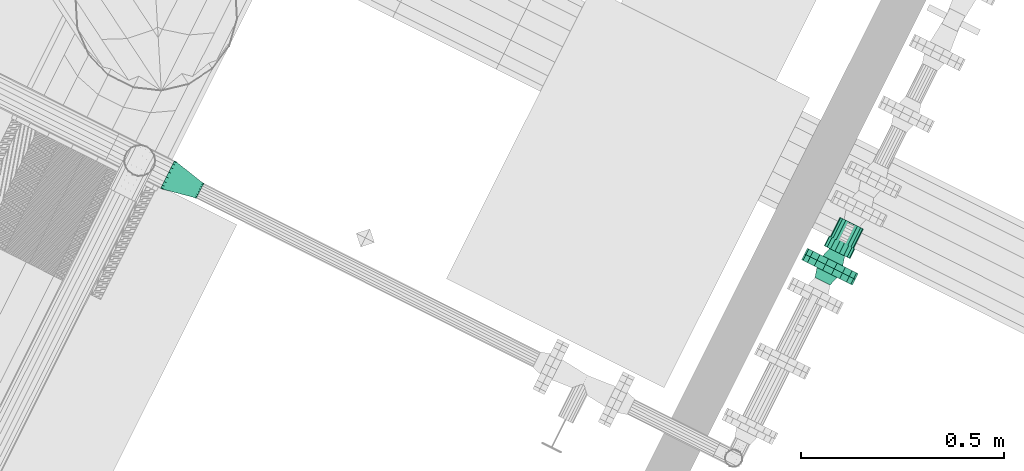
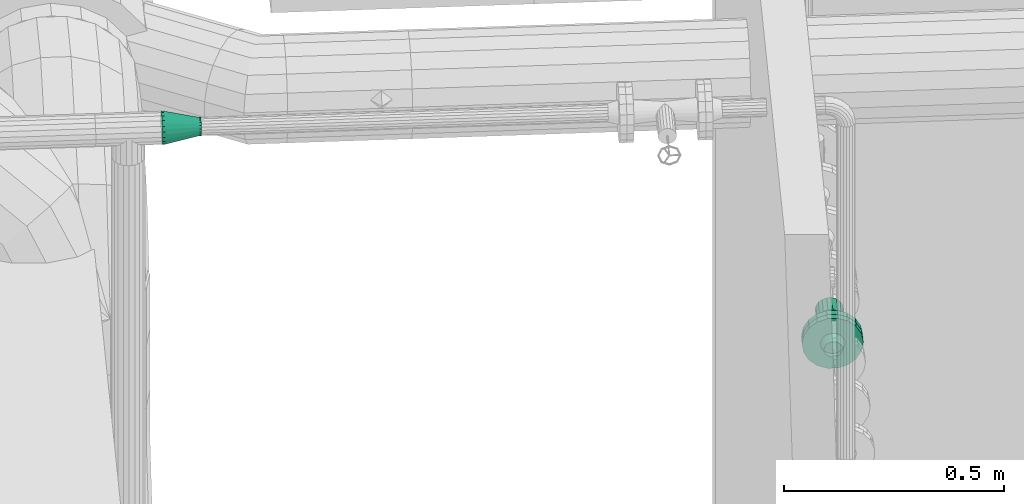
# One storey, part 140 of 206: 3 flow fittings, 1 flow controller.
"""IFC2X3 building model written with IfcOpenShell, lengths in metres."""

from ifc_helpers import new_model, si_unit, derived_unit, direction, frame, origin, place, context, subcontext, project, spatial, face_set, surface_model, source, transform, mapped, material, type_object, type_shapes, element, save


model = new_model("IFC2X3")

# Units and contexts
model_context = context("Model", 3, precision=5.2338327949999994e-05, world=origin(), true_north=direction((0.0, 1.0)))
body_context = subcontext(model_context, "Body", "Model", "MODEL_VIEW")
ifc_project = project(units=[si_unit("LENGTHUNIT", "METRE"), si_unit("AREAUNIT", "SQUARE_METRE"), si_unit("VOLUMEUNIT", "CUBIC_METRE"), si_unit("MASSUNIT", "GRAM", prefix="KILO"), si_unit("PLANEANGLEUNIT", "RADIAN"), derived_unit("THERMALTRANSMITTANCEUNIT", [(si_unit("MASSUNIT", "GRAM", prefix="KILO"), 1), (si_unit("THERMODYNAMICTEMPERATUREUNIT", "KELVIN"), -1), (si_unit("TIMEUNIT", "SECOND"), -3)])], contexts=[model_context])

# Site, building, storey
site_placement = place(None, frame((0.0, 0.0, 0.0), z_axis=(0.0, 0.0, 1.0), x_axis=(0.8939966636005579, -0.4480736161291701, 0.0)))
site = spatial("IfcSite", under=ifc_project, at=site_placement, Name="Default", CompositionType="ELEMENT")
building_placement = place(site_placement, origin())
building = spatial("IfcBuilding", under=site, at=building_placement, CompositionType="ELEMENT")
storey_placement = place(building_placement, origin())
storey = spatial("IfcBuildingStorey", under=building, at=storey_placement, Name="Erdgeschoss", CompositionType="ELEMENT", Elevation=0.0)

# Flow fittings
ifc_material = material(Name="IfcSurfaceStyle #352577")
distribution_element_type_1 = type_object("IfcDistributionElementType", Name="Übergangsstück 605382:Übergangsstück 605382", material=ifc_material)
shared_shape_1 = source(origin(), body_context, "Body", "SurfaceModel", [
    surface_model("IfcFaceBasedSurfaceModel", [(27.521642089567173, 8.039112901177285, 2.6051641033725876), (27.521642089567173, 8.04140759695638, 2.5921502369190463), (27.528257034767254, 8.04140759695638, 2.5921502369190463), (27.528257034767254, 8.039112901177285, 2.6051641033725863), (27.521642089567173, 8.048014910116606, 2.5807060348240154), (27.528257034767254, 8.048014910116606, 2.5807060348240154), (27.521642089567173, 8.058137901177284, 2.5722118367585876), (27.528257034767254, 8.058137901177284, 2.5722118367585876), (27.521642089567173, 8.070555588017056, 2.5676921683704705), (27.528257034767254, 8.070555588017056, 2.5676921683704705), (27.521642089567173, 8.083770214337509, 2.567692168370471), (27.528257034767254, 8.083770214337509, 2.567692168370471), (27.521642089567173, 8.096187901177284, 2.5722118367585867), (27.528257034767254, 8.096187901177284, 2.5722118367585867), (27.521642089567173, 8.10631089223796, 2.5807060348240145), (27.528257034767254, 8.10631089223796, 2.5807060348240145), (27.521642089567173, 8.112918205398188, 2.5921502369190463), (27.528257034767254, 8.112918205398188, 2.5921502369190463), (27.521642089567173, 8.115212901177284, 2.605164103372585), (27.528257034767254, 8.115212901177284, 2.605164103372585), (27.521642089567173, 8.112918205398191, 2.61817796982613), (27.528257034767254, 8.112918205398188, 2.61817796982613), (27.521642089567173, 8.106310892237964, 2.6296221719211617), (27.528257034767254, 8.106310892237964, 2.6296221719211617), (27.521642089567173, 8.096187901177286, 2.6381163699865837), (27.528257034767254, 8.096187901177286, 2.6381163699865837), (27.521642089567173, 8.083770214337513, 2.642636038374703), (27.528257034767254, 8.083770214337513, 2.642636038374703), (27.521642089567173, 8.07055558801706, 2.6426360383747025), (27.528257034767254, 8.07055558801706, 2.6426360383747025), (27.521642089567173, 8.058137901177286, 2.6381163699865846), (27.528257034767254, 8.058137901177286, 2.6381163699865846), (27.521642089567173, 8.048014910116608, 2.629622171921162), (27.528257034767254, 8.048014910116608, 2.629622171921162), (27.521642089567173, 8.041407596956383, 2.6181779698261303), (27.528257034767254, 8.041407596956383, 2.6181779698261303), (27.528257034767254, 8.077162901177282, 2.5671141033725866), (27.528257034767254, 8.090176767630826, 2.5694087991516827), (27.607037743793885, 8.084413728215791, 2.5852426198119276), (27.607037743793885, 8.077162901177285, 2.5839641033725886), (27.528257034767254, 8.101620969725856, 2.5760161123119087), (27.607037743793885, 8.09078999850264, 2.588923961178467), (27.528257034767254, 8.110115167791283, 2.586139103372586), (27.607037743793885, 8.095522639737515, 2.5945641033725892), (27.528257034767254, 8.114634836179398, 2.5985567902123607), (27.607037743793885, 8.098040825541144, 2.601482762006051), (27.528257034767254, 8.114634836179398, 2.611771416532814), (27.607037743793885, 8.098040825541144, 2.6088454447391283), (27.528257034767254, 8.110115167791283, 2.6241891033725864), (27.607037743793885, 8.095522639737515, 2.6157641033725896), (27.528257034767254, 8.10162096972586, 2.634312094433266), (27.607037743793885, 8.09078999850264, 2.621404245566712), (27.528257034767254, 8.090176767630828, 2.6409194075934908), (27.607037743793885, 8.08441372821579, 2.6250855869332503), (27.528257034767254, 8.077162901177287, 2.643214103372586), (27.607037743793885, 8.077162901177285, 2.6263641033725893), (27.528257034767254, 8.064149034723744, 2.6409194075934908), (27.607037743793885, 8.06991207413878, 2.6250855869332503), (27.528257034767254, 8.052704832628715, 2.6343120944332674), (27.607037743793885, 8.06353580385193, 2.6214042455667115), (27.528257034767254, 8.044210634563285, 2.624189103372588), (27.607037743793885, 8.058803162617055, 2.61576410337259), (27.528257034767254, 8.03969096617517, 2.6117714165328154), (27.607037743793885, 8.056284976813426, 2.6088454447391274), (27.528257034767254, 8.03969096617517, 2.5985567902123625), (27.607037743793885, 8.056284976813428, 2.6014827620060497), (27.528257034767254, 8.044210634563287, 2.586139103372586), (27.607037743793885, 8.058803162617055, 2.594564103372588), (27.528257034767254, 8.052704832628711, 2.5760161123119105), (27.607037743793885, 8.06353580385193, 2.5889239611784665), (27.528257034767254, 8.06414903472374, 2.5694087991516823), (27.607037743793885, 8.069912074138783, 2.5852426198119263), (27.607037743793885, 8.055962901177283, 2.6051641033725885), (27.607037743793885, 8.057241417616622, 2.597913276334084), (27.611642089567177, 8.057241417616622, 2.597913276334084), (27.611642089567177, 8.055962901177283, 2.6051641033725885), (27.607037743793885, 8.060922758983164, 2.5915370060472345), (27.611642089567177, 8.060922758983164, 2.5915370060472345), (27.607037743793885, 8.066562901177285, 2.5868043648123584), (27.611642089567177, 8.066562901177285, 2.5868043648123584), (27.607037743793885, 8.073481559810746, 2.5842861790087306), (27.611642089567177, 8.073481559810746, 2.5842861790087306), (27.607037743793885, 8.080844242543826, 2.5842861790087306), (27.611642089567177, 8.080844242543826, 2.5842861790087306), (27.607037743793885, 8.087762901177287, 2.5868043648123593), (27.611642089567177, 8.087762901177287, 2.5868043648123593), (27.607037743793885, 8.093403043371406, 2.5915370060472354), (27.611642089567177, 8.093403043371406, 2.5915370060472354), (27.607037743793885, 8.097084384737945, 2.597913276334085), (27.611642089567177, 8.097084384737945, 2.597913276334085), (27.607037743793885, 8.098362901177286, 2.60516410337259), (27.611642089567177, 8.098362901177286, 2.60516410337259), (27.607037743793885, 8.097084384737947, 2.612414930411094), (27.611642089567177, 8.097084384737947, 2.612414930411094), (27.607037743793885, 8.093403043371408, 2.6187912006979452), (27.611642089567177, 8.093403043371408, 2.6187912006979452), (27.607037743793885, 8.087762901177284, 2.6235238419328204), (27.611642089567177, 8.087762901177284, 2.6235238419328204), (27.607037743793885, 8.080844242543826, 2.6260420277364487), (27.611642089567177, 8.080844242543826, 2.6260420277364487), (27.607037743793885, 8.073481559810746, 2.6260420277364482), (27.611642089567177, 8.073481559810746, 2.6260420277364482), (27.607037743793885, 8.066562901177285, 2.6235238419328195), (27.611642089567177, 8.066562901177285, 2.6235238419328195), (27.607037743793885, 8.060922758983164, 2.618791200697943), (27.611642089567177, 8.060922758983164, 2.618791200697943), (27.607037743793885, 8.057241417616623, 2.6124149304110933), (27.611642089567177, 8.057241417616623, 2.6124149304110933)], [face_set([[[0, 1, 2, 3]], [[1, 4, 5, 2]], [[4, 6, 7, 5]], [[6, 8, 9, 7]], [[8, 10, 11, 9]], [[10, 12, 13, 11]], [[12, 14, 15, 13]], [[14, 16, 17, 15]], [[16, 18, 19, 17]], [[18, 20, 21, 19]], [[20, 22, 23, 21]], [[22, 24, 25, 23]], [[24, 26, 27, 25]], [[26, 28, 29, 27]], [[28, 30, 31, 29]], [[30, 32, 33, 31]], [[32, 34, 35, 33]], [[34, 0, 3, 35]], [[36, 37, 38, 39]], [[37, 40, 41, 38]], [[40, 42, 43, 41]], [[42, 44, 45, 43]], [[44, 46, 47, 45]], [[46, 48, 49, 47]], [[48, 50, 51, 49]], [[50, 52, 53, 51]], [[52, 54, 55, 53]], [[54, 56, 57, 55]], [[56, 58, 59, 57]], [[58, 60, 61, 59]], [[60, 62, 63, 61]], [[62, 64, 65, 63]], [[64, 66, 67, 65]], [[66, 68, 69, 67]], [[68, 70, 71, 69]], [[70, 36, 39, 71]], [[72, 73, 74, 75]], [[73, 76, 77, 74]], [[76, 78, 79, 77]], [[78, 80, 81, 79]], [[80, 82, 83, 81]], [[82, 84, 85, 83]], [[84, 86, 87, 85]], [[86, 88, 89, 87]], [[88, 90, 91, 89]], [[90, 92, 93, 91]], [[92, 94, 95, 93]], [[94, 96, 97, 95]], [[96, 98, 99, 97]], [[98, 100, 101, 99]], [[100, 102, 103, 101]], [[102, 104, 105, 103]], [[104, 106, 107, 105]], [[106, 72, 75, 107]]])]),
])
type_shapes(distribution_element_type_1, [shared_shape_1])
flow_fitting_1_placement = place(storey_placement, origin())
element("IfcFlowFitting", 1, at=flow_fitting_1_placement, inside=storey, type_object=distribution_element_type_1, material=ifc_material, Name="Übergangsstück", ObjectType="Übergangsstück", context=body_context, shape_type="MappedRepresentation", body=[
    mapped(shared_shape_1, transform((0.0, 0.0, 0.0), scale=1.0)),
])
distribution_element_type_2 = type_object("IfcDistributionElementType", Name="Flansch 607492:Flansch 607492", material=ifc_material)
shared_shape_2 = source(origin(), body_context, "Body", "SurfaceModel", [
    surface_model("IfcFaceBasedSurfaceModel", [(29.151818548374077, 8.605162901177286, 1.5840041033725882), (29.14759703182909, 8.605162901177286, 1.6079455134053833), (29.14759703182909, 8.589162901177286, 1.6079455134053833), (29.151818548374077, 8.589162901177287, 1.5840041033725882), (29.135441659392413, 8.605162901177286, 1.628999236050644), (29.135441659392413, 8.589162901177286, 1.628999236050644), (29.116818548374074, 8.605162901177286, 1.6446258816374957), (29.116818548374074, 8.589162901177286, 1.6446258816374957), (29.093973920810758, 8.605162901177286, 1.6529406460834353), (29.093973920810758, 8.589162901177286, 1.6529406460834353), (29.069663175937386, 8.605162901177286, 1.652940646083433), (29.069663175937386, 8.589162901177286, 1.652940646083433), (29.04681854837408, 8.605162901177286, 1.6446258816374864), (29.04681854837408, 8.589162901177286, 1.6446258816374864), (29.028195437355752, 8.605162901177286, 1.6289992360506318), (29.028195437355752, 8.589162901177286, 1.6289992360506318), (29.016040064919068, 8.605162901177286, 1.6079455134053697), (29.016040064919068, 8.589162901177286, 1.6079455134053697), (29.011818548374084, 8.605162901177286, 1.5840041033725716), (29.011818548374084, 8.589162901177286, 1.5840041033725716), (29.016040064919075, 8.605162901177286, 1.5600626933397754), (29.016040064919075, 8.589162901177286, 1.5600626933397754), (29.028195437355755, 8.605162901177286, 1.5390089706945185), (29.028195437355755, 8.589162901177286, 1.5390089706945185), (29.046818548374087, 8.605162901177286, 1.523382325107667), (29.046818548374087, 8.589162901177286, 1.523382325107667), (29.069663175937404, 8.605162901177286, 1.5150675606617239), (29.069663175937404, 8.589162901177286, 1.5150675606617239), (29.093973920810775, 8.605162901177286, 1.515067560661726), (29.093973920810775, 8.589162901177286, 1.515067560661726), (29.11681854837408, 8.605162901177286, 1.5233823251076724), (29.11681854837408, 8.589162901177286, 1.5233823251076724), (29.135441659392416, 8.605162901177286, 1.5390089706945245), (29.135441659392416, 8.589162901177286, 1.5390089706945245), (29.1475970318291, 8.605162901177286, 1.5600626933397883), (29.1475970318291, 8.589162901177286, 1.5600626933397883), (29.081818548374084, 8.589162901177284, 1.5840041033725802), (29.08181854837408, 8.589162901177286, 1.6120041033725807), (29.07224198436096, 8.589162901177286, 1.6103154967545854), (29.07456772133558, 8.565162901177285, 1.6039255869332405), (29.081818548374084, 8.565162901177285, 1.6052041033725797), (29.06382049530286, 8.589162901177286, 1.6054533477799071), (29.068191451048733, 8.565162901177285, 1.6002442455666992), (29.057569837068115, 8.589162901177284, 1.5980041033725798), (29.06345880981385, 8.565162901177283, 1.5946041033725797), (29.05424393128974, 8.589162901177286, 1.5888662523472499), (29.060940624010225, 8.565162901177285, 1.5876854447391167), (29.05424393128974, 8.589162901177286, 1.5791419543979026), (29.06094062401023, 8.565162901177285, 1.580322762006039), (29.057569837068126, 8.589162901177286, 1.5700041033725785), (29.063458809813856, 8.565162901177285, 1.5734041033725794), (29.06382049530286, 8.589162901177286, 1.5625548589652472), (29.068191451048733, 8.565162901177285, 1.567763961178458), (29.07224198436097, 8.589162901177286, 1.5576927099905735), (29.07456772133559, 8.565162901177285, 1.5640826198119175), (29.081818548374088, 8.589162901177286, 1.5560041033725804), (29.081818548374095, 8.565162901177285, 1.56280410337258), (29.091395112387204, 8.589162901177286, 1.5576927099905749), (29.08906937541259, 8.565162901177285, 1.564082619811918), (29.099816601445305, 8.589162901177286, 1.5625548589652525), (29.095445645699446, 8.565162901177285, 1.5677639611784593), (29.106067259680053, 8.589162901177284, 1.5700041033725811), (29.100178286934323, 8.565162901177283, 1.573404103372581), (29.109393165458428, 8.589162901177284, 1.5791419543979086), (29.102696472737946, 8.565162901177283, 1.5803227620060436), (29.109393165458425, 8.589162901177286, 1.588866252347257), (29.10269647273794, 8.565162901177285, 1.587685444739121), (29.106067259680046, 8.589162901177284, 1.598004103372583), (29.10017828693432, 8.565162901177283, 1.5946041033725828), (29.0998166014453, 8.589162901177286, 1.6054533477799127), (29.095445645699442, 8.565162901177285, 1.6002442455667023), (29.0913951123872, 8.589162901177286, 1.6103154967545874), (29.089069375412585, 8.565162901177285, 1.6039255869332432)], [face_set([[[0, 1, 2, 3]], [[1, 4, 5, 2]], [[4, 6, 7, 5]], [[6, 8, 9, 7]], [[8, 10, 11, 9]], [[10, 12, 13, 11]], [[12, 14, 15, 13]], [[14, 16, 17, 15]], [[16, 18, 19, 17]], [[18, 20, 21, 19]], [[20, 22, 23, 21]], [[22, 24, 25, 23]], [[24, 26, 27, 25]], [[26, 28, 29, 27]], [[28, 30, 31, 29]], [[30, 32, 33, 31]], [[32, 34, 35, 33]], [[34, 0, 3, 35]], [[36, 35, 3]], [[36, 33, 35]], [[36, 31, 33]], [[36, 29, 31]], [[36, 27, 29]], [[36, 25, 27]], [[36, 23, 25]], [[36, 21, 23]], [[36, 19, 21]], [[36, 17, 19]], [[36, 15, 17]], [[36, 13, 15]], [[36, 11, 13]], [[36, 9, 11]], [[36, 7, 9]], [[36, 5, 7]], [[36, 2, 5]], [[36, 3, 2]], [[37, 38, 39, 40]], [[38, 41, 42, 39]], [[41, 43, 44, 42]], [[43, 45, 46, 44]], [[45, 47, 48, 46]], [[47, 49, 50, 48]], [[49, 51, 52, 50]], [[51, 53, 54, 52]], [[53, 55, 56, 54]], [[55, 57, 58, 56]], [[57, 59, 60, 58]], [[59, 61, 62, 60]], [[61, 63, 64, 62]], [[63, 65, 66, 64]], [[65, 67, 68, 66]], [[67, 69, 70, 68]], [[69, 71, 72, 70]], [[71, 37, 40, 72]]])]),
])
type_shapes(distribution_element_type_2, [shared_shape_2])
flow_fitting_2_placement = place(storey_placement, origin())
element("IfcFlowFitting", 2, at=flow_fitting_2_placement, inside=storey, type_object=distribution_element_type_2, material=ifc_material, Name="Flansch", ObjectType="Flansch", context=body_context, shape_type="MappedRepresentation", body=[
    mapped(shared_shape_2, transform((0.0, 0.0, 0.0), scale=1.0)),
])
distribution_element_type_3 = type_object("IfcDistributionElementType", Name="Flansch 607515:Flansch 607515", material=ifc_material)
shared_shape_3 = source(origin(), body_context, "Body", "SurfaceModel", [
    surface_model("IfcFaceBasedSurfaceModel", [(29.151818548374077, 8.605162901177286, 1.5840041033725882), (29.14759703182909, 8.605162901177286, 1.5600626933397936), (29.14759703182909, 8.621162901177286, 1.5600626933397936), (29.151818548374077, 8.621162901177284, 1.5840041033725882), (29.13544165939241, 8.605162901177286, 1.5390089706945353), (29.13544165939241, 8.621162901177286, 1.5390089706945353), (29.116818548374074, 8.605162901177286, 1.5233823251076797), (29.116818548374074, 8.621162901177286, 1.5233823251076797), (29.093973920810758, 8.605162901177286, 1.5150675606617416), (29.093973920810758, 8.621162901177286, 1.5150675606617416), (29.069663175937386, 8.605162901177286, 1.5150675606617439), (29.069663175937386, 8.621162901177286, 1.5150675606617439), (29.04681854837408, 8.605162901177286, 1.5233823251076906), (29.04681854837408, 8.621162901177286, 1.5233823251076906), (29.02819543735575, 8.605162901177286, 1.539008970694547), (29.02819543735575, 8.621162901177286, 1.539008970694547), (29.016040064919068, 8.605162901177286, 1.5600626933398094), (29.016040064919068, 8.621162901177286, 1.5600626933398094), (29.011818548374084, 8.605162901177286, 1.5840041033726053), (29.011818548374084, 8.621162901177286, 1.5840041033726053), (29.016040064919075, 8.605162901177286, 1.607945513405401), (29.016040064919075, 8.621162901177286, 1.607945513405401), (29.02819543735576, 8.605162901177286, 1.6289992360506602), (29.02819543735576, 8.621162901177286, 1.6289992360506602), (29.046818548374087, 8.605162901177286, 1.6446258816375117), (29.046818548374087, 8.621162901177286, 1.6446258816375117), (29.069663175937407, 8.605162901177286, 1.6529406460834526), (29.069663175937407, 8.621162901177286, 1.6529406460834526), (29.093973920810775, 8.605162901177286, 1.6529406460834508), (29.093973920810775, 8.621162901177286, 1.6529406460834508), (29.11681854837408, 8.605162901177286, 1.6446258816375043), (29.11681854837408, 8.621162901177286, 1.6446258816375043), (29.135441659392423, 8.605162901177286, 1.6289992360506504), (29.135441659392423, 8.621162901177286, 1.6289992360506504), (29.1475970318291, 8.605162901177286, 1.607945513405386), (29.1475970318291, 8.621162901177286, 1.607945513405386), (29.08181854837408, 8.621162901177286, 1.5840041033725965), (29.08181854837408, 8.621162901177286, 1.5560041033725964), (29.07224198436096, 8.621162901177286, 1.5576927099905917), (29.074567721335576, 8.645162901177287, 1.5640826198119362), (29.08181854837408, 8.645162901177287, 1.562804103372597), (29.06382049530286, 8.621162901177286, 1.562554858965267), (29.06819145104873, 8.645162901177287, 1.5677639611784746), (29.057569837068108, 8.621162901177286, 1.570004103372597), (29.063458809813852, 8.645162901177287, 1.5734041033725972), (29.054243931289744, 8.621162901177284, 1.5791419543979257), (29.06094062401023, 8.645162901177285, 1.5803227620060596), (29.05424393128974, 8.621162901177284, 1.588866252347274), (29.06094062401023, 8.645162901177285, 1.5876854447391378), (29.057569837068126, 8.621162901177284, 1.5980041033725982), (29.063458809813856, 8.645162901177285, 1.5946041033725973), (29.06382049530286, 8.621162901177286, 1.6054533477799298), (29.068191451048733, 8.645162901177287, 1.6002442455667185), (29.07224198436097, 8.621162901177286, 1.6103154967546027), (29.07456772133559, 8.645162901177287, 1.6039255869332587), (29.081818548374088, 8.621162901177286, 1.612004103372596), (29.081818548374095, 8.645162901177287, 1.6052041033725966), (29.091395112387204, 8.621162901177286, 1.6103154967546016), (29.08906937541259, 8.645162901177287, 1.6039255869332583), (29.099816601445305, 8.621162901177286, 1.605453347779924), (29.095445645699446, 8.645162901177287, 1.6002442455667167), (29.106067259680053, 8.621162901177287, 1.5980041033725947), (29.100178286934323, 8.645162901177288, 1.594604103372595), (29.109393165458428, 8.621162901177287, 1.588866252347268), (29.102696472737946, 8.645162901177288, 1.5876854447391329), (29.109393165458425, 8.621162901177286, 1.57914195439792), (29.10269647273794, 8.645162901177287, 1.5803227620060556), (29.10606725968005, 8.621162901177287, 1.570004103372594), (29.10017828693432, 8.645162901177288, 1.5734041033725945), (29.0998166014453, 8.621162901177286, 1.562554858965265), (29.095445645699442, 8.645162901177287, 1.5677639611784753), (29.0913951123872, 8.621162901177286, 1.5576927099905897), (29.089069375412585, 8.645162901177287, 1.564082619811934)], [face_set([[[0, 1, 2, 3]], [[1, 4, 5, 2]], [[4, 6, 7, 5]], [[6, 8, 9, 7]], [[8, 10, 11, 9]], [[10, 12, 13, 11]], [[12, 14, 15, 13]], [[14, 16, 17, 15]], [[16, 18, 19, 17]], [[18, 20, 21, 19]], [[20, 22, 23, 21]], [[22, 24, 25, 23]], [[24, 26, 27, 25]], [[26, 28, 29, 27]], [[28, 30, 31, 29]], [[30, 32, 33, 31]], [[32, 34, 35, 33]], [[34, 0, 3, 35]], [[36, 35, 3]], [[36, 33, 35]], [[36, 31, 33]], [[36, 29, 31]], [[36, 27, 29]], [[36, 25, 27]], [[36, 23, 25]], [[36, 21, 23]], [[36, 19, 21]], [[36, 17, 19]], [[36, 15, 17]], [[36, 13, 15]], [[36, 11, 13]], [[36, 9, 11]], [[36, 7, 9]], [[36, 5, 7]], [[36, 2, 5]], [[36, 3, 2]], [[37, 38, 39, 40]], [[38, 41, 42, 39]], [[41, 43, 44, 42]], [[43, 45, 46, 44]], [[45, 47, 48, 46]], [[47, 49, 50, 48]], [[49, 51, 52, 50]], [[51, 53, 54, 52]], [[53, 55, 56, 54]], [[55, 57, 58, 56]], [[57, 59, 60, 58]], [[59, 61, 62, 60]], [[61, 63, 64, 62]], [[63, 65, 66, 64]], [[65, 67, 68, 66]], [[67, 69, 70, 68]], [[69, 71, 72, 70]], [[71, 37, 40, 72]]])]),
])
type_shapes(distribution_element_type_3, [shared_shape_3])
flow_fitting_3_placement = place(storey_placement, origin())
element("IfcFlowFitting", 3, at=flow_fitting_3_placement, inside=storey, type_object=distribution_element_type_3, material=ifc_material, Name="Flansch", ObjectType="Flansch", context=body_context, shape_type="MappedRepresentation", body=[
    mapped(shared_shape_3, transform((0.0, 0.0, 0.0), scale=1.0)),
])

# Flow controller
distribution_element_type_4 = type_object("IfcDistributionElementType", Name="Gasfilter 607536:Gasfilter 607536", material=ifc_material)
shared_shape_4 = source(origin(), body_context, "Body", "SurfaceModel", [
    surface_model("IfcFaceBasedSurfaceModel", [(29.114218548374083, 8.725162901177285, 1.5840041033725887), (29.112264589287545, 8.725162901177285, 1.5950855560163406), (29.112264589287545, 8.671829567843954, 1.5950855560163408), (29.114218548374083, 8.671829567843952, 1.5840041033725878), (29.106638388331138, 8.725162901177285, 1.604830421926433), (29.106638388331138, 8.671829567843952, 1.604830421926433), (29.098018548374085, 8.725162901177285, 1.612063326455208), (29.098018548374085, 8.671829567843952, 1.612063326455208), (29.08744474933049, 8.725162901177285, 1.6159118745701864), (29.08744474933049, 8.671829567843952, 1.6159118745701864), (29.076192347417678, 8.725162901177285, 1.6159118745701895), (29.076192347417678, 8.671829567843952, 1.6159118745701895), (29.06561854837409, 8.725162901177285, 1.612063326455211), (29.06561854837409, 8.671829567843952, 1.612063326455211), (29.056998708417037, 8.725162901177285, 1.604830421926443), (29.056998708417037, 8.671829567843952, 1.604830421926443), (29.051372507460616, 8.725162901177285, 1.5950855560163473), (29.051372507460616, 8.671829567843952, 1.5950855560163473), (29.049418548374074, 8.725162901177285, 1.5840041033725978), (29.049418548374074, 8.671829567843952, 1.5840041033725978), (29.051372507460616, 8.725162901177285, 1.5729226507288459), (29.051372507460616, 8.671829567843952, 1.5729226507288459), (29.056998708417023, 8.725162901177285, 1.5631777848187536), (29.056998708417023, 8.671829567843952, 1.5631777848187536), (29.065618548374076, 8.725162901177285, 1.5559448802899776), (29.065618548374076, 8.671829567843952, 1.5559448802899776), (29.07619234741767, 8.725162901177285, 1.5520963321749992), (29.07619234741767, 8.671829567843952, 1.5520963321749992), (29.087444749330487, 8.725162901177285, 1.5520963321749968), (29.087444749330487, 8.671829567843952, 1.5520963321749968), (29.09801854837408, 8.725162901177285, 1.555944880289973), (29.09801854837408, 8.671829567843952, 1.555944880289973), (29.106638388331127, 8.725162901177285, 1.563177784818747), (29.106638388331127, 8.671829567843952, 1.563177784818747), (29.112264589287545, 8.725162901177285, 1.5729226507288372), (29.112264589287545, 8.671829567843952, 1.5729226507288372), (29.08181854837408, 8.725162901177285, 1.5840041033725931), (29.117818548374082, 8.671829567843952, 1.5840041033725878), (29.11564748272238, 8.671829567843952, 1.5963168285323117), (29.11564748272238, 8.645162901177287, 1.5963168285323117), (29.117818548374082, 8.645162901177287, 1.5840041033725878), (29.109396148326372, 8.671829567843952, 1.6071444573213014), (29.109396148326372, 8.645162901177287, 1.6071444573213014), (29.099818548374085, 8.671829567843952, 1.6151810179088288), (29.099818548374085, 8.645162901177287, 1.6151810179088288), (29.088069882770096, 8.671829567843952, 1.6194571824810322), (29.088069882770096, 8.645162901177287, 1.6194571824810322), (29.07556721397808, 8.671829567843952, 1.6194571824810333), (29.07556721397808, 8.645162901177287, 1.6194571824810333), (29.06381854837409, 8.671829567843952, 1.6151810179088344), (29.06381854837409, 8.645162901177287, 1.6151810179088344), (29.054240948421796, 8.671829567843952, 1.6071444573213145), (29.054240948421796, 8.645162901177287, 1.6071444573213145), (29.047989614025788, 8.671829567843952, 1.5963168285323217), (29.047989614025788, 8.645162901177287, 1.5963168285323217), (29.04581854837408, 8.671829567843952, 1.5840041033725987), (29.04581854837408, 8.645162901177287, 1.5840041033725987), (29.04798961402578, 8.671829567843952, 1.571691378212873), (29.04798961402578, 8.645162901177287, 1.571691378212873), (29.05424094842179, 8.671829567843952, 1.560863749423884), (29.05424094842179, 8.645162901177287, 1.560863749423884), (29.063818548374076, 8.671829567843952, 1.5528271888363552), (29.063818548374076, 8.645162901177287, 1.5528271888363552), (29.07556721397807, 8.671829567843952, 1.5485510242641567), (29.07556721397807, 8.645162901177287, 1.5485510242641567), (29.088069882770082, 8.671829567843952, 1.548551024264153), (29.088069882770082, 8.645162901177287, 1.548551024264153), (29.099818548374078, 8.671829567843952, 1.5528271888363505), (29.099818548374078, 8.645162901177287, 1.5528271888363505), (29.109396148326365, 8.671829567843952, 1.560863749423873), (29.109396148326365, 8.645162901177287, 1.560863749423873), (29.11564748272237, 8.671829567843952, 1.5716913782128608), (29.11564748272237, 8.645162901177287, 1.5716913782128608), (29.08181854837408, 8.671829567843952, 1.5840041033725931), (29.08181854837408, 8.645162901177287, 1.5840041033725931)], [face_set([[[0, 1, 2, 3]], [[1, 4, 5, 2]], [[4, 6, 7, 5]], [[6, 8, 9, 7]], [[8, 10, 11, 9]], [[10, 12, 13, 11]], [[12, 14, 15, 13]], [[14, 16, 17, 15]], [[16, 18, 19, 17]], [[18, 20, 21, 19]], [[20, 22, 23, 21]], [[22, 24, 25, 23]], [[24, 26, 27, 25]], [[26, 28, 29, 27]], [[28, 30, 31, 29]], [[30, 32, 33, 31]], [[32, 34, 35, 33]], [[34, 0, 3, 35]], [[36, 1, 0]], [[36, 4, 1]], [[36, 6, 4]], [[36, 8, 6]], [[36, 10, 8]], [[36, 12, 10]], [[36, 14, 12]], [[36, 16, 14]], [[36, 18, 16]], [[36, 20, 18]], [[36, 22, 20]], [[36, 24, 22]], [[36, 26, 24]], [[36, 28, 26]], [[36, 30, 28]], [[36, 32, 30]], [[36, 34, 32]], [[36, 0, 34]], [[37, 38, 39, 40]], [[38, 41, 42, 39]], [[41, 43, 44, 42]], [[43, 45, 46, 44]], [[45, 47, 48, 46]], [[47, 49, 50, 48]], [[49, 51, 52, 50]], [[51, 53, 54, 52]], [[53, 55, 56, 54]], [[55, 57, 58, 56]], [[57, 59, 60, 58]], [[59, 61, 62, 60]], [[61, 63, 64, 62]], [[63, 65, 66, 64]], [[65, 67, 68, 66]], [[67, 69, 70, 68]], [[69, 71, 72, 70]], [[71, 37, 40, 72]], [[73, 38, 37]], [[73, 41, 38]], [[73, 43, 41]], [[73, 45, 43]], [[73, 47, 45]], [[73, 49, 47]], [[73, 51, 49]], [[73, 53, 51]], [[73, 55, 53]], [[73, 57, 55]], [[73, 59, 57]], [[73, 61, 59]], [[73, 63, 61]], [[73, 65, 63]], [[73, 67, 65]], [[73, 69, 67]], [[73, 71, 69]], [[73, 37, 71]], [[74, 72, 40]], [[74, 70, 72]], [[74, 68, 70]], [[74, 66, 68]], [[74, 64, 66]], [[74, 62, 64]], [[74, 60, 62]], [[74, 58, 60]], [[74, 56, 58]], [[74, 54, 56]], [[74, 52, 54]], [[74, 50, 52]], [[74, 48, 50]], [[74, 46, 48]], [[74, 44, 46]], [[74, 42, 44]], [[74, 39, 42]], [[74, 40, 39]]])]),
])
type_shapes(distribution_element_type_4, [shared_shape_4])
flow_controller_placement = place(storey_placement, origin())
element("IfcFlowController", 4, at=flow_controller_placement, inside=storey, type_object=distribution_element_type_4, material=ifc_material, Name="Gasfilter", ObjectType="Gasfilter", context=body_context, shape_type="MappedRepresentation", body=[
    mapped(shared_shape_4, transform((0.0, 0.0, 0.0), scale=1.0)),
])

save(model, "model.ifc")
